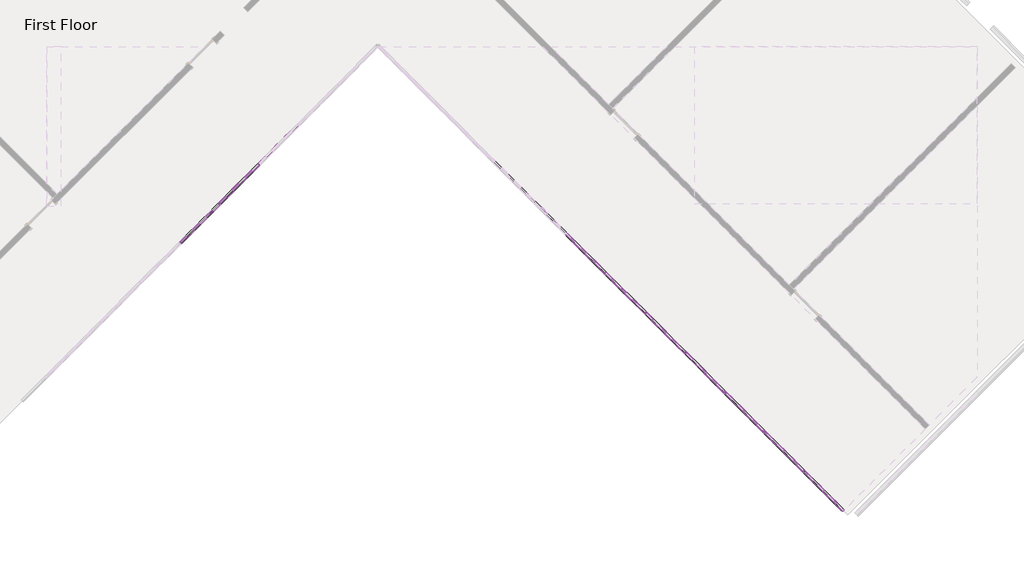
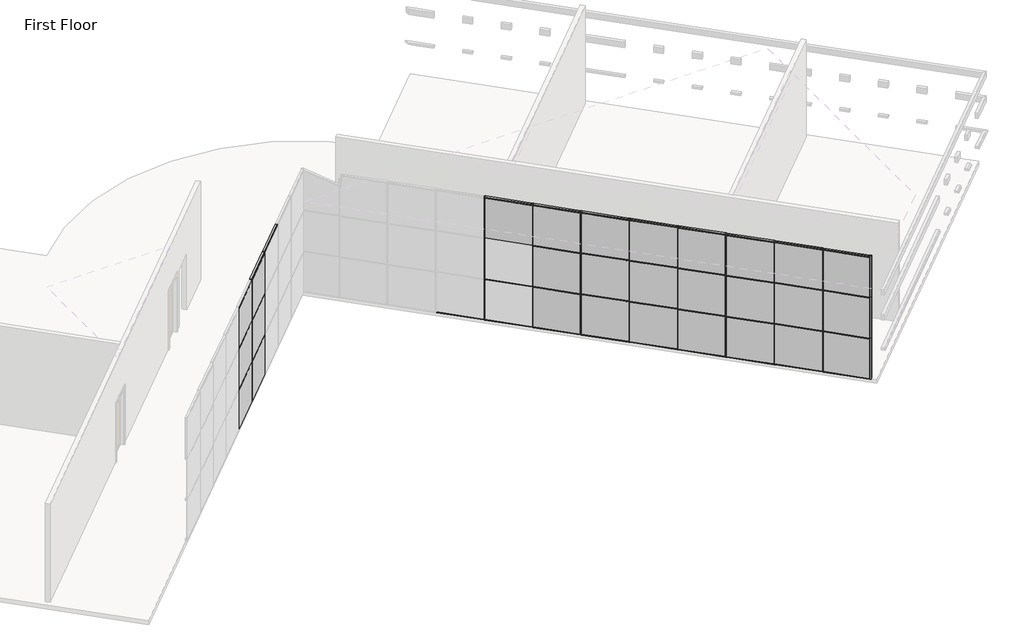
# One storey, part 2 of 5: 73 members, 28 plates.
"""IFC4 building model written with IfcOpenShell, lengths in millimetres."""

from ifc_helpers import new_model, si_unit, origin, place, context, project, spatial, transform, mapped, element, save
from components import member_b8a5b5c0, member_155beb68, member_f5090587, member_42be4715, member_6121af53, member_b87a50da, system_panel_glazed_f8555db4, system_panel_glazed_da345f4e, system_panel_glazed_d4009c89, system_panel_glazed_f1e4c5b0, system_panel_solid_99f695d0, system_panel_solid_2f1037e2

model = new_model("IFC4")

# Units and contexts
model_context = context("Model", 3, world=origin())
ifc_project = project(units=[si_unit("LENGTHUNIT", "METRE", prefix="MILLI")], contexts=[model_context])

# Site, building, storey
site = spatial("IfcSite", under=ifc_project)
building = spatial("IfcBuilding", under=site)
storey = spatial("IfcBuildingStorey", under=building, Name="First Floor", Elevation=0.0)

# Members
placement = place(None, origin())
member_shape = member_b8a5b5c0(model_context)
element("IfcMember", 1, ObjectType="Rectangular Mullion : 1.5\" x 2.5\" Rectangular", at=placement, inside=storey, context=model_context, shape_type="MappedRepresentation", body=[
    mapped(member_shape, transform((9787.3975743, -9702.8925106, 0.0), x_axis=(0.0, 0.0, -1.0), y_axis=(0.70710678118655, 0.707106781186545, 0.0), z_axis=(0.7071067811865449, -0.7071067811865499, 0.0))),
])
member_2_shape = member_155beb68(model_context)
element("IfcMember", 2, ObjectType="Rectangular Mullion : 1.5\" x 2.5\" Rectangular", at=placement, inside=storey, context=model_context, shape_type="MappedRepresentation", body=[
    mapped(member_2_shape, transform((-6100.9205679, -280.3587756, 0.0), x_axis=(-0.7071067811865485, -0.7071067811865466, 0.0), y_axis=(-0.7071067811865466, 0.7071067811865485, 0.0), z_axis=(0.0, 0.0, -1.0))),
])
element("IfcMember", 3, ObjectType="Rectangular Mullion : 1.5\" x 2.5\" Rectangular", at=placement, inside=storey, context=model_context, shape_type="MappedRepresentation", body=[
    mapped(member_2_shape, transform((-7178.5513024, -1357.9895101, 0.0), x_axis=(-0.7071067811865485, -0.7071067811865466, 0.0), y_axis=(-0.7071067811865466, 0.7071067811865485, 0.0), z_axis=(0.0, 0.0, -1.0))),
])
element("IfcMember", 4, ObjectType="Rectangular Mullion : 1.5\" x 2.5\" Rectangular", at=placement, inside=storey, context=model_context, shape_type="MappedRepresentation", body=[
    mapped(member_2_shape, transform((5503.8154046, -5419.3103408, 0.0), x_axis=(-0.7071067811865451, 0.70710678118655, 0.0), y_axis=(0.70710678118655, 0.7071067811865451, 0.0), z_axis=(0.0, 0.0, -1.0))),
])
element("IfcMember", 5, ObjectType="Rectangular Mullion : 1.5\" x 2.5\" Rectangular", at=placement, inside=storey, context=model_context, shape_type="MappedRepresentation", body=[
    mapped(member_2_shape, transform((4426.18467, -4341.6796063, 0.0), x_axis=(-0.7071067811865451, 0.70710678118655, 0.0), y_axis=(0.70710678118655, 0.7071067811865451, 0.0), z_axis=(0.0, 0.0, -1.0))),
])
element("IfcMember", 6, ObjectType="Rectangular Mullion : 1.5\" x 2.5\" Rectangular", at=placement, inside=storey, context=model_context, shape_type="MappedRepresentation", body=[
    mapped(member_2_shape, transform((3348.5539355, -3264.0488718, 0.0), x_axis=(-0.7071067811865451, 0.70710678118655, 0.0), y_axis=(0.70710678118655, 0.7071067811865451, 0.0), z_axis=(0.0, 0.0, -1.0))),
])
element("IfcMember", 7, ObjectType="Rectangular Mullion : 1.5\" x 2.5\" Rectangular", at=placement, inside=storey, context=model_context, shape_type="MappedRepresentation", body=[
    mapped(member_2_shape, transform((2270.923201, -2186.4181373, 0.0), x_axis=(-0.7071067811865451, 0.70710678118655, 0.0), y_axis=(0.70710678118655, 0.7071067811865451, 0.0), z_axis=(0.0, 0.0, -1.0))),
])
element("IfcMember", 8, ObjectType="Rectangular Mullion : 1.5\" x 2.5\" Rectangular", at=placement, inside=storey, context=model_context, shape_type="MappedRepresentation", body=[
    mapped(member_2_shape, transform((1193.2924664, -1108.7874027, 0.0), x_axis=(-0.7071067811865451, 0.70710678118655, 0.0), y_axis=(0.70710678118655, 0.7071067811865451, 0.0), z_axis=(0.0, 0.0, -1.0))),
])
element("IfcMember", 9, ObjectType="Rectangular Mullion : 1.5\" x 2.5\" Rectangular", at=placement, inside=storey, context=model_context, shape_type="MappedRepresentation", body=[
    mapped(member_2_shape, transform((8736.7076081, -8652.2025444, 0.0), x_axis=(-0.7071067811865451, 0.70710678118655, 0.0), y_axis=(0.70710678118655, 0.7071067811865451, 0.0), z_axis=(0.0, 0.0, -1.0))),
])
element("IfcMember", 10, ObjectType="Rectangular Mullion : 1.5\" x 2.5\" Rectangular", at=placement, inside=storey, context=model_context, shape_type="MappedRepresentation", body=[
    mapped(member_2_shape, transform((7659.0768736, -7574.5718099, 0.0), x_axis=(-0.7071067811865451, 0.70710678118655, 0.0), y_axis=(0.70710678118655, 0.7071067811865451, 0.0), z_axis=(0.0, 0.0, -1.0))),
])
element("IfcMember", 11, ObjectType="Rectangular Mullion : 1.5\" x 2.5\" Rectangular", at=placement, inside=storey, context=model_context, shape_type="MappedRepresentation", body=[
    mapped(member_2_shape, transform((6581.4461391, -6496.9410754, 0.0), x_axis=(-0.7071067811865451, 0.70710678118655, 0.0), y_axis=(0.70710678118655, 0.7071067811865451, 0.0), z_axis=(0.0, 0.0, -1.0))),
])
element("IfcMember", 12, ObjectType="Rectangular Mullion : 1.5\" x 2.5\" Rectangular", at=placement, inside=storey, context=model_context, shape_type="MappedRepresentation", body=[
    mapped(member_2_shape, transform((-7178.5513024, -1357.9895101, 3048.0), x_axis=(-0.7071067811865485, -0.7071067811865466, 0.0), y_axis=(-0.7071067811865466, 0.7071067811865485, 0.0), z_axis=(0.0, 0.0, -1.0))),
])
element("IfcMember", 13, ObjectType="Rectangular Mullion : 1.5\" x 2.5\" Rectangular", at=placement, inside=storey, context=model_context, shape_type="MappedRepresentation", body=[
    mapped(member_2_shape, transform((-6100.9205679, -280.3587756, 3048.0), x_axis=(-0.7071067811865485, -0.7071067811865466, 0.0), y_axis=(-0.7071067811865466, 0.7071067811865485, 0.0), z_axis=(0.0, 0.0, -1.0))),
])
element("IfcMember", 14, ObjectType="Rectangular Mullion : 1.5\" x 2.5\" Rectangular", at=placement, inside=storey, context=model_context, shape_type="MappedRepresentation", body=[
    mapped(member_2_shape, transform((8736.7076081, -8652.2025444, 3048.0), x_axis=(-0.7071067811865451, 0.70710678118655, 0.0), y_axis=(0.70710678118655, 0.7071067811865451, 0.0), z_axis=(0.0, 0.0, -1.0))),
])
element("IfcMember", 15, ObjectType="Rectangular Mullion : 1.5\" x 2.5\" Rectangular", at=placement, inside=storey, context=model_context, shape_type="MappedRepresentation", body=[
    mapped(member_2_shape, transform((7659.0768736, -7574.5718099, 3048.0), x_axis=(-0.7071067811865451, 0.70710678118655, 0.0), y_axis=(0.70710678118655, 0.7071067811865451, 0.0), z_axis=(0.0, 0.0, -1.0))),
])
element("IfcMember", 16, ObjectType="Rectangular Mullion : 1.5\" x 2.5\" Rectangular", at=placement, inside=storey, context=model_context, shape_type="MappedRepresentation", body=[
    mapped(member_2_shape, transform((6581.4461391, -6496.9410754, 3048.0), x_axis=(-0.7071067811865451, 0.70710678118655, 0.0), y_axis=(0.70710678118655, 0.7071067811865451, 0.0), z_axis=(0.0, 0.0, -1.0))),
])
element("IfcMember", 17, ObjectType="Rectangular Mullion : 1.5\" x 2.5\" Rectangular", at=placement, inside=storey, context=model_context, shape_type="MappedRepresentation", body=[
    mapped(member_2_shape, transform((5503.8154046, -5419.3103408, 3048.0), x_axis=(-0.7071067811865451, 0.70710678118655, 0.0), y_axis=(0.70710678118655, 0.7071067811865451, 0.0), z_axis=(0.0, 0.0, -1.0))),
])
element("IfcMember", 18, ObjectType="Rectangular Mullion : 1.5\" x 2.5\" Rectangular", at=placement, inside=storey, context=model_context, shape_type="MappedRepresentation", body=[
    mapped(member_2_shape, transform((4426.18467, -4341.6796063, 3048.0), x_axis=(-0.7071067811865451, 0.70710678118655, 0.0), y_axis=(0.70710678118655, 0.7071067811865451, 0.0), z_axis=(0.0, 0.0, -1.0))),
])
element("IfcMember", 19, ObjectType="Rectangular Mullion : 1.5\" x 2.5\" Rectangular", at=placement, inside=storey, context=model_context, shape_type="MappedRepresentation", body=[
    mapped(member_2_shape, transform((3348.5539355, -3264.0488718, 3048.0), x_axis=(-0.7071067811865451, 0.70710678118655, 0.0), y_axis=(0.70710678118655, 0.7071067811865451, 0.0), z_axis=(0.0, 0.0, -1.0))),
])
element("IfcMember", 20, ObjectType="Rectangular Mullion : 1.5\" x 2.5\" Rectangular", at=placement, inside=storey, context=model_context, shape_type="MappedRepresentation", body=[
    mapped(member_2_shape, transform((2270.923201, -2186.4181373, 3048.0), x_axis=(-0.7071067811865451, 0.70710678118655, 0.0), y_axis=(0.70710678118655, 0.7071067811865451, 0.0), z_axis=(0.0, 0.0, -1.0))),
])
element("IfcMember", 21, ObjectType="Rectangular Mullion : 1.5\" x 2.5\" Rectangular", at=placement, inside=storey, context=model_context, shape_type="MappedRepresentation", body=[
    mapped(member_2_shape, transform((1193.2924664, -1108.7874027, 3048.0), x_axis=(-0.7071067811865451, 0.70710678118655, 0.0), y_axis=(0.70710678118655, 0.7071067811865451, 0.0), z_axis=(0.0, 0.0, -1.0))),
])
element("IfcMember", 22, ObjectType="Rectangular Mullion : 1.5\" x 2.5\" Rectangular", at=placement, inside=storey, context=model_context, shape_type="MappedRepresentation", body=[
    mapped(member_2_shape, transform((-6100.9205679, -280.3587756, 1524.0), x_axis=(-0.7071067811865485, -0.7071067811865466, 0.0), y_axis=(-0.7071067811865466, 0.7071067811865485, 0.0), z_axis=(0.0, 0.0, -1.0))),
])
element("IfcMember", 23, ObjectType="Rectangular Mullion : 1.5\" x 2.5\" Rectangular", at=placement, inside=storey, context=model_context, shape_type="MappedRepresentation", body=[
    mapped(member_2_shape, transform((-7178.5513024, -1357.9895101, 1524.0), x_axis=(-0.7071067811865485, -0.7071067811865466, 0.0), y_axis=(-0.7071067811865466, 0.7071067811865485, 0.0), z_axis=(0.0, 0.0, -1.0))),
])
element("IfcMember", 24, ObjectType="Rectangular Mullion : 1.5\" x 2.5\" Rectangular", at=placement, inside=storey, context=model_context, shape_type="MappedRepresentation", body=[
    mapped(member_2_shape, transform((8736.7076081, -8652.2025444, 1524.0), x_axis=(-0.7071067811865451, 0.70710678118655, 0.0), y_axis=(0.70710678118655, 0.7071067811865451, 0.0), z_axis=(0.0, 0.0, -1.0))),
])
element("IfcMember", 25, ObjectType="Rectangular Mullion : 1.5\" x 2.5\" Rectangular", at=placement, inside=storey, context=model_context, shape_type="MappedRepresentation", body=[
    mapped(member_2_shape, transform((7659.0768736, -7574.5718099, 1524.0), x_axis=(-0.7071067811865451, 0.70710678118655, 0.0), y_axis=(0.70710678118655, 0.7071067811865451, 0.0), z_axis=(0.0, 0.0, -1.0))),
])
element("IfcMember", 26, ObjectType="Rectangular Mullion : 1.5\" x 2.5\" Rectangular", at=placement, inside=storey, context=model_context, shape_type="MappedRepresentation", body=[
    mapped(member_2_shape, transform((6581.4461391, -6496.9410754, 1524.0), x_axis=(-0.7071067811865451, 0.70710678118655, 0.0), y_axis=(0.70710678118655, 0.7071067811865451, 0.0), z_axis=(0.0, 0.0, -1.0))),
])
element("IfcMember", 27, ObjectType="Rectangular Mullion : 1.5\" x 2.5\" Rectangular", at=placement, inside=storey, context=model_context, shape_type="MappedRepresentation", body=[
    mapped(member_2_shape, transform((5503.8154046, -5419.3103408, 1524.0), x_axis=(-0.7071067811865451, 0.70710678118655, 0.0), y_axis=(0.70710678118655, 0.7071067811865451, 0.0), z_axis=(0.0, 0.0, -1.0))),
])
element("IfcMember", 28, ObjectType="Rectangular Mullion : 1.5\" x 2.5\" Rectangular", at=placement, inside=storey, context=model_context, shape_type="MappedRepresentation", body=[
    mapped(member_2_shape, transform((4426.18467, -4341.6796063, 1524.0), x_axis=(-0.7071067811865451, 0.70710678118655, 0.0), y_axis=(0.70710678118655, 0.7071067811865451, 0.0), z_axis=(0.0, 0.0, -1.0))),
])
element("IfcMember", 29, ObjectType="Rectangular Mullion : 1.5\" x 2.5\" Rectangular", at=placement, inside=storey, context=model_context, shape_type="MappedRepresentation", body=[
    mapped(member_2_shape, transform((3348.5539355, -3264.0488718, 1524.0), x_axis=(-0.7071067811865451, 0.70710678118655, 0.0), y_axis=(0.70710678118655, 0.7071067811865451, 0.0), z_axis=(0.0, 0.0, -1.0))),
])
element("IfcMember", 30, ObjectType="Rectangular Mullion : 1.5\" x 2.5\" Rectangular", at=placement, inside=storey, context=model_context, shape_type="MappedRepresentation", body=[
    mapped(member_2_shape, transform((2270.923201, -2186.4181373, 1524.0), x_axis=(-0.7071067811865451, 0.70710678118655, 0.0), y_axis=(0.70710678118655, 0.7071067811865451, 0.0), z_axis=(0.0, 0.0, -1.0))),
])
element("IfcMember", 31, ObjectType="Rectangular Mullion : 1.5\" x 2.5\" Rectangular", at=placement, inside=storey, context=model_context, shape_type="MappedRepresentation", body=[
    mapped(member_2_shape, transform((1193.2924664, -1108.7874027, 1524.0), x_axis=(-0.7071067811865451, 0.70710678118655, 0.0), y_axis=(0.70710678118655, 0.7071067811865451, 0.0), z_axis=(0.0, 0.0, -1.0))),
])
member_3_shape = member_f5090587(model_context)
element("IfcMember", 32, ObjectType="Rectangular Mullion : 1.5\" x 2.5\" Rectangular", at=placement, inside=storey, context=model_context, shape_type="MappedRepresentation", body=[
    mapped(member_3_shape, transform((8750.1779923, -8665.6729286, 1524.0), x_axis=(0.0, 0.0, 1.0), y_axis=(0.7071067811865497, 0.7071067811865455, 0.0), z_axis=(-0.7071067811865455, 0.7071067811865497, 0.0))),
])
element("IfcMember", 33, ObjectType="Rectangular Mullion : 1.5\" x 2.5\" Rectangular", at=placement, inside=storey, context=model_context, shape_type="MappedRepresentation", body=[
    mapped(member_3_shape, transform((8750.1779923, -8665.6729286, 3048.0), x_axis=(0.0, 0.0, 1.0), y_axis=(0.7071067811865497, 0.7071067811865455, 0.0), z_axis=(-0.7071067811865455, 0.7071067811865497, 0.0))),
])
member_4_shape = member_42be4715(model_context)
element("IfcMember", 34, ObjectType="Rectangular Mullion : 1.5\" x 2.5\" Rectangular", at=placement, inside=storey, context=model_context, shape_type="MappedRepresentation", body=[
    mapped(member_4_shape, transform((-6087.4501837, -266.8883914, 1524.0), x_axis=(0.0, 0.0, 1.0), y_axis=(-0.7071067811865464, 0.7071067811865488, 0.0), z_axis=(-0.7071067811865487, -0.7071067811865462, 0.0))),
])
element("IfcMember", 35, ObjectType="Rectangular Mullion : 1.5\" x 2.5\" Rectangular", at=placement, inside=storey, context=model_context, shape_type="MappedRepresentation", body=[
    mapped(member_4_shape, transform((-7165.0809182, -1344.5191259, 1524.0), x_axis=(0.0, 0.0, 1.0), y_axis=(-0.7071067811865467, 0.7071067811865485, 0.0), z_axis=(-0.7071067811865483, -0.7071067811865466, 0.0))),
])
element("IfcMember", 36, ObjectType="Rectangular Mullion : 1.5\" x 2.5\" Rectangular", at=placement, inside=storey, context=model_context, shape_type="MappedRepresentation", body=[
    mapped(member_4_shape, transform((-6087.4501837, -266.8883914, 3048.0), x_axis=(0.0, 0.0, 1.0), y_axis=(-0.7071067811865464, 0.7071067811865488, 0.0), z_axis=(-0.7071067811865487, -0.7071067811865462, 0.0))),
])
element("IfcMember", 37, ObjectType="Rectangular Mullion : 1.5\" x 2.5\" Rectangular", at=placement, inside=storey, context=model_context, shape_type="MappedRepresentation", body=[
    mapped(member_4_shape, transform((-7165.0809182, -1344.5191259, 3048.0), x_axis=(0.0, 0.0, 1.0), y_axis=(-0.7071067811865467, 0.7071067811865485, 0.0), z_axis=(-0.7071067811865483, -0.7071067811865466, 0.0))),
])
element("IfcMember", 38, ObjectType="Rectangular Mullion : 1.5\" x 2.5\" Rectangular", at=placement, inside=storey, context=model_context, shape_type="MappedRepresentation", body=[
    mapped(member_4_shape, transform((7672.5472578, -7588.0421941, 1524.0), x_axis=(0.0, 0.0, 1.0), y_axis=(0.7071067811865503, 0.7071067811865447, 0.0), z_axis=(-0.7071067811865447, 0.7071067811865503, 0.0))),
])
element("IfcMember", 39, ObjectType="Rectangular Mullion : 1.5\" x 2.5\" Rectangular", at=placement, inside=storey, context=model_context, shape_type="MappedRepresentation", body=[
    mapped(member_4_shape, transform((6594.9165233, -6510.4114596, 1524.0), x_axis=(0.0, 0.0, 1.0), y_axis=(0.7071067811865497, 0.7071067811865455, 0.0), z_axis=(-0.7071067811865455, 0.7071067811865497, 0.0))),
])
element("IfcMember", 40, ObjectType="Rectangular Mullion : 1.5\" x 2.5\" Rectangular", at=placement, inside=storey, context=model_context, shape_type="MappedRepresentation", body=[
    mapped(member_4_shape, transform((5517.2857887, -5432.780725, 1524.0), x_axis=(0.0, 0.0, 1.0), y_axis=(0.70710678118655, 0.707106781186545, 0.0), z_axis=(-0.707106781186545, 0.70710678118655, 0.0))),
])
element("IfcMember", 41, ObjectType="Rectangular Mullion : 1.5\" x 2.5\" Rectangular", at=placement, inside=storey, context=model_context, shape_type="MappedRepresentation", body=[
    mapped(member_4_shape, transform((4439.6550542, -4355.1499905, 1524.0), x_axis=(0.0, 0.0, 1.0), y_axis=(0.70710678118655, 0.707106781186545, 0.0), z_axis=(-0.7071067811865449, 0.7071067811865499, 0.0))),
])
element("IfcMember", 42, ObjectType="Rectangular Mullion : 1.5\" x 2.5\" Rectangular", at=placement, inside=storey, context=model_context, shape_type="MappedRepresentation", body=[
    mapped(member_4_shape, transform((3362.0243197, -3277.519256, 1524.0), x_axis=(0.0, 0.0, 1.0), y_axis=(0.70710678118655, 0.707106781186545, 0.0), z_axis=(-0.707106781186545, 0.70710678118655, 0.0))),
])
element("IfcMember", 43, ObjectType="Rectangular Mullion : 1.5\" x 2.5\" Rectangular", at=placement, inside=storey, context=model_context, shape_type="MappedRepresentation", body=[
    mapped(member_4_shape, transform((2284.3935852, -2199.8885214, 1524.0), x_axis=(0.0, 0.0, 1.0), y_axis=(0.70710678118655, 0.707106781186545, 0.0), z_axis=(-0.7071067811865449, 0.7071067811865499, 0.0))),
])
element("IfcMember", 44, ObjectType="Rectangular Mullion : 1.5\" x 2.5\" Rectangular", at=placement, inside=storey, context=model_context, shape_type="MappedRepresentation", body=[
    mapped(member_4_shape, transform((1206.7628506, -1122.2577869, 1524.0), x_axis=(0.0, 0.0, 1.0), y_axis=(0.70710678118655, 0.707106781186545, 0.0), z_axis=(-0.707106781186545, 0.70710678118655, 0.0))),
])
element("IfcMember", 45, ObjectType="Rectangular Mullion : 1.5\" x 2.5\" Rectangular", at=placement, inside=storey, context=model_context, shape_type="MappedRepresentation", body=[
    mapped(member_4_shape, transform((7672.5472578, -7588.0421941, 3048.0), x_axis=(0.0, 0.0, 1.0), y_axis=(0.70710678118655, 0.707106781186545, 0.0), z_axis=(-0.707106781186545, 0.70710678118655, 0.0))),
])
element("IfcMember", 46, ObjectType="Rectangular Mullion : 1.5\" x 2.5\" Rectangular", at=placement, inside=storey, context=model_context, shape_type="MappedRepresentation", body=[
    mapped(member_4_shape, transform((6594.9165233, -6510.4114596, 3048.0), x_axis=(0.0, 0.0, 1.0), y_axis=(0.70710678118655, 0.707106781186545, 0.0), z_axis=(-0.7071067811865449, 0.7071067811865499, 0.0))),
])
element("IfcMember", 47, ObjectType="Rectangular Mullion : 1.5\" x 2.5\" Rectangular", at=placement, inside=storey, context=model_context, shape_type="MappedRepresentation", body=[
    mapped(member_4_shape, transform((5517.2857887, -5432.780725, 3048.0), x_axis=(0.0, 0.0, 1.0), y_axis=(0.70710678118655, 0.707106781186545, 0.0), z_axis=(-0.7071067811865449, 0.7071067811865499, 0.0))),
])
element("IfcMember", 48, ObjectType="Rectangular Mullion : 1.5\" x 2.5\" Rectangular", at=placement, inside=storey, context=model_context, shape_type="MappedRepresentation", body=[
    mapped(member_4_shape, transform((4439.6550542, -4355.1499905, 3048.0), x_axis=(0.0, 0.0, 1.0), y_axis=(0.70710678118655, 0.707106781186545, 0.0), z_axis=(-0.707106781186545, 0.70710678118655, 0.0))),
])
element("IfcMember", 49, ObjectType="Rectangular Mullion : 1.5\" x 2.5\" Rectangular", at=placement, inside=storey, context=model_context, shape_type="MappedRepresentation", body=[
    mapped(member_4_shape, transform((3362.0243197, -3277.519256, 3048.0), x_axis=(0.0, 0.0, 1.0), y_axis=(0.70710678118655, 0.707106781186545, 0.0), z_axis=(-0.707106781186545, 0.70710678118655, 0.0))),
])
element("IfcMember", 50, ObjectType="Rectangular Mullion : 1.5\" x 2.5\" Rectangular", at=placement, inside=storey, context=model_context, shape_type="MappedRepresentation", body=[
    mapped(member_4_shape, transform((2284.3935852, -2199.8885214, 3048.0), x_axis=(0.0, 0.0, 1.0), y_axis=(0.70710678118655, 0.707106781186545, 0.0), z_axis=(-0.7071067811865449, 0.7071067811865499, 0.0))),
])
member_5_shape = member_6121af53(model_context)
element("IfcMember", 51, ObjectType="Rectangular Mullion : 1.5\" x 2.5\" Rectangular", at=placement, inside=storey, context=model_context, shape_type="MappedRepresentation", body=[
    mapped(member_5_shape, transform((-7192.0216866, -1371.4598943, 0.0), x_axis=(0.0, 0.0, -1.0), y_axis=(-0.7071067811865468, 0.7071067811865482, 0.0), z_axis=(0.7071067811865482, 0.7071067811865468, 0.0))),
])
element("IfcMember", 52, ObjectType="Rectangular Mullion : 1.5\" x 2.5\" Rectangular", at=placement, inside=storey, context=model_context, shape_type="MappedRepresentation", body=[
    mapped(member_5_shape, transform((-6114.3909521, -293.8291597, 0.0), x_axis=(0.0, 0.0, -1.0), y_axis=(-0.7071067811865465, 0.7071067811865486, 0.0), z_axis=(0.7071067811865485, 0.7071067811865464, 0.0))),
])
element("IfcMember", 53, ObjectType="Rectangular Mullion : 1.5\" x 2.5\" Rectangular", at=placement, inside=storey, context=model_context, shape_type="MappedRepresentation", body=[
    mapped(member_5_shape, transform((8723.237224, -8638.7321603, 0.0), x_axis=(0.0, 0.0, -1.0), y_axis=(0.7071067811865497, 0.7071067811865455, 0.0), z_axis=(0.7071067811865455, -0.7071067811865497, 0.0))),
])
element("IfcMember", 54, ObjectType="Rectangular Mullion : 1.5\" x 2.5\" Rectangular", at=placement, inside=storey, context=model_context, shape_type="MappedRepresentation", body=[
    mapped(member_5_shape, transform((7645.6064894, -7561.1014257, 0.0), x_axis=(0.0, 0.0, -1.0), y_axis=(0.70710678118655, 0.707106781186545, 0.0), z_axis=(0.707106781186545, -0.70710678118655, 0.0))),
])
element("IfcMember", 55, ObjectType="Rectangular Mullion : 1.5\" x 2.5\" Rectangular", at=placement, inside=storey, context=model_context, shape_type="MappedRepresentation", body=[
    mapped(member_5_shape, transform((6567.9757549, -6483.4706912, 0.0), x_axis=(0.0, 0.0, -1.0), y_axis=(0.70710678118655, 0.707106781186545, 0.0), z_axis=(0.707106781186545, -0.70710678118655, 0.0))),
])
element("IfcMember", 56, ObjectType="Rectangular Mullion : 1.5\" x 2.5\" Rectangular", at=placement, inside=storey, context=model_context, shape_type="MappedRepresentation", body=[
    mapped(member_5_shape, transform((5490.3450204, -5405.8399567, 0.0), x_axis=(0.0, 0.0, -1.0), y_axis=(0.70710678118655, 0.707106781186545, 0.0), z_axis=(0.7071067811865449, -0.7071067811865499, 0.0))),
])
element("IfcMember", 57, ObjectType="Rectangular Mullion : 1.5\" x 2.5\" Rectangular", at=placement, inside=storey, context=model_context, shape_type="MappedRepresentation", body=[
    mapped(member_5_shape, transform((4412.7142859, -4328.2092221, 0.0), x_axis=(0.0, 0.0, -1.0), y_axis=(0.70710678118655, 0.707106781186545, 0.0), z_axis=(0.707106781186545, -0.70710678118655, 0.0))),
])
element("IfcMember", 58, ObjectType="Rectangular Mullion : 1.5\" x 2.5\" Rectangular", at=placement, inside=storey, context=model_context, shape_type="MappedRepresentation", body=[
    mapped(member_5_shape, transform((3335.0835513, -3250.5784876, 0.0), x_axis=(0.0, 0.0, -1.0), y_axis=(0.70710678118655, 0.707106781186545, 0.0), z_axis=(0.7071067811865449, -0.7071067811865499, 0.0))),
])
element("IfcMember", 59, ObjectType="Rectangular Mullion : 1.5\" x 2.5\" Rectangular", at=placement, inside=storey, context=model_context, shape_type="MappedRepresentation", body=[
    mapped(member_5_shape, transform((2257.4528168, -2172.9477531, 0.0), x_axis=(0.0, 0.0, -1.0), y_axis=(0.70710678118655, 0.707106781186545, 0.0), z_axis=(0.707106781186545, -0.70710678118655, 0.0))),
])
element("IfcMember", 60, ObjectType="Rectangular Mullion : 1.5\" x 2.5\" Rectangular", at=placement, inside=storey, context=model_context, shape_type="MappedRepresentation", body=[
    mapped(member_5_shape, transform((1179.8220823, -1095.3170186, 0.0), x_axis=(0.0, 0.0, -1.0), y_axis=(0.70710678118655, 0.707106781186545, 0.0), z_axis=(0.707106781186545, -0.70710678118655, 0.0))),
])
element("IfcMember", 61, ObjectType="Rectangular Mullion : 1.5\" x 2.5\" Rectangular", at=placement, inside=storey, context=model_context, shape_type="MappedRepresentation", body=[
    mapped(member_shape, transform((8750.1779923, -8665.6729286, 4572.0), x_axis=(0.0, 0.0, 1.0), y_axis=(0.7071067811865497, 0.7071067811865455, 0.0), z_axis=(-0.7071067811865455, 0.7071067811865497, 0.0))),
])
element("IfcMember", 62, ObjectType="Rectangular Mullion : 1.5\" x 2.5\" Rectangular", at=placement, inside=storey, context=model_context, shape_type="MappedRepresentation", body=[
    mapped(member_5_shape, transform((-6087.4501837, -266.8883914, 4572.0), x_axis=(0.0, 0.0, 1.0), y_axis=(-0.7071067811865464, 0.7071067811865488, 0.0), z_axis=(-0.7071067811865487, -0.7071067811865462, 0.0))),
])
element("IfcMember", 63, ObjectType="Rectangular Mullion : 1.5\" x 2.5\" Rectangular", at=placement, inside=storey, context=model_context, shape_type="MappedRepresentation", body=[
    mapped(member_5_shape, transform((-7165.0809182, -1344.5191259, 4572.0), x_axis=(0.0, 0.0, 1.0), y_axis=(-0.7071067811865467, 0.7071067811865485, 0.0), z_axis=(-0.7071067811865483, -0.7071067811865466, 0.0))),
])
element("IfcMember", 64, ObjectType="Rectangular Mullion : 1.5\" x 2.5\" Rectangular", at=placement, inside=storey, context=model_context, shape_type="MappedRepresentation", body=[
    mapped(member_5_shape, transform((7672.5472578, -7588.0421941, 4572.0), x_axis=(0.0, 0.0, 1.0), y_axis=(0.70710678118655, 0.707106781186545, 0.0), z_axis=(-0.707106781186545, 0.70710678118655, 0.0))),
])
element("IfcMember", 65, ObjectType="Rectangular Mullion : 1.5\" x 2.5\" Rectangular", at=placement, inside=storey, context=model_context, shape_type="MappedRepresentation", body=[
    mapped(member_5_shape, transform((6594.9165233, -6510.4114596, 4572.0), x_axis=(0.0, 0.0, 1.0), y_axis=(0.70710678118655, 0.707106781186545, 0.0), z_axis=(-0.7071067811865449, 0.7071067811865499, 0.0))),
])
element("IfcMember", 66, ObjectType="Rectangular Mullion : 1.5\" x 2.5\" Rectangular", at=placement, inside=storey, context=model_context, shape_type="MappedRepresentation", body=[
    mapped(member_5_shape, transform((5517.2857887, -5432.780725, 4572.0), x_axis=(0.0, 0.0, 1.0), y_axis=(0.70710678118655, 0.707106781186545, 0.0), z_axis=(-0.7071067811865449, 0.7071067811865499, 0.0))),
])
element("IfcMember", 67, ObjectType="Rectangular Mullion : 1.5\" x 2.5\" Rectangular", at=placement, inside=storey, context=model_context, shape_type="MappedRepresentation", body=[
    mapped(member_5_shape, transform((4439.6550542, -4355.1499905, 4572.0), x_axis=(0.0, 0.0, 1.0), y_axis=(0.70710678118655, 0.707106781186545, 0.0), z_axis=(-0.707106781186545, 0.70710678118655, 0.0))),
])
element("IfcMember", 68, ObjectType="Rectangular Mullion : 1.5\" x 2.5\" Rectangular", at=placement, inside=storey, context=model_context, shape_type="MappedRepresentation", body=[
    mapped(member_5_shape, transform((3362.0243197, -3277.519256, 4572.0), x_axis=(0.0, 0.0, 1.0), y_axis=(0.70710678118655, 0.707106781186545, 0.0), z_axis=(-0.707106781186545, 0.70710678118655, 0.0))),
])
element("IfcMember", 69, ObjectType="Rectangular Mullion : 1.5\" x 2.5\" Rectangular", at=placement, inside=storey, context=model_context, shape_type="MappedRepresentation", body=[
    mapped(member_5_shape, transform((2284.3935852, -2199.8885214, 4572.0), x_axis=(0.0, 0.0, 1.0), y_axis=(0.70710678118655, 0.707106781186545, 0.0), z_axis=(-0.7071067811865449, 0.7071067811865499, 0.0))),
])
element("IfcMember", 70, ObjectType="Rectangular Mullion : 1.5\" x 2.5\" Rectangular", at=placement, inside=storey, context=model_context, shape_type="MappedRepresentation", body=[
    mapped(member_5_shape, transform((1206.7628506, -1122.2577869, 4572.0), x_axis=(0.0, 0.0, 1.0), y_axis=(0.70710678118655, 0.707106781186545, 0.0), z_axis=(-0.707106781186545, 0.70710678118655, 0.0))),
])
member_6_shape = member_b87a50da(model_context)
element("IfcMember", 71, ObjectType="Rectangular Mullion : 1.5\" x 2.5\" Rectangular", at=placement, inside=storey, context=model_context, shape_type="MappedRepresentation", body=[
    mapped(member_6_shape, transform((9814.3383427, -9729.833279, 4572.0), x_axis=(0.7071067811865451, -0.70710678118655, 0.0), y_axis=(0.70710678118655, 0.7071067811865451, 0.0), z_axis=(0.0, 0.0, 1.0))),
])
element("IfcMember", 72, ObjectType="Rectangular Mullion : 1.5\" x 2.5\" Rectangular", at=placement, inside=storey, context=model_context, shape_type="MappedRepresentation", body=[
    mapped(member_6_shape, transform((9814.3383427, -9729.833279, 1524.0), x_axis=(0.7071067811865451, -0.70710678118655, 0.0), y_axis=(0.70710678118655, 0.7071067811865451, 0.0), z_axis=(0.0, 0.0, 1.0))),
])
element("IfcMember", 73, ObjectType="Rectangular Mullion : 1.5\" x 2.5\" Rectangular", at=placement, inside=storey, context=model_context, shape_type="MappedRepresentation", body=[
    mapped(member_6_shape, transform((9814.3383427, -9729.833279, 3048.0), x_axis=(0.7071067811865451, -0.70710678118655, 0.0), y_axis=(0.70710678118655, 0.7071067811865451, 0.0), z_axis=(0.0, 0.0, 1.0))),
])

# Plates
system_panel_glazed_shape = system_panel_glazed_f8555db4(model_context)
element("IfcPlate", 74, ObjectType="System Panel : Glazed", at=placement, inside=storey, context=model_context, shape_type="MappedRepresentation", body=[
    mapped(system_panel_glazed_shape, transform((9268.7877833, -9184.2827196, 38.1), x_axis=(-0.7071067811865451, 0.70710678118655, 0.0), y_axis=(-0.70710678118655, -0.7071067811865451, 0.0), z_axis=(0.0, 0.0, 1.0))),
])
system_panel_glazed_2_shape = system_panel_glazed_da345f4e(model_context)
element("IfcPlate", 75, ObjectType="System Panel : Glazed", at=placement, inside=storey, context=model_context, shape_type="MappedRepresentation", body=[
    mapped(system_panel_glazed_2_shape, transform((8197.8922409, -8113.3871772, 38.1), x_axis=(-0.7071067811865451, 0.70710678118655, 0.0), y_axis=(-0.70710678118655, -0.7071067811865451, 0.0), z_axis=(0.0, 0.0, 1.0))),
])
element("IfcPlate", 76, ObjectType="System Panel : Glazed", at=placement, inside=storey, context=model_context, shape_type="MappedRepresentation", body=[
    mapped(system_panel_glazed_2_shape, transform((7120.2615064, -7035.7564426, 38.1), x_axis=(-0.7071067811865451, 0.70710678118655, 0.0), y_axis=(-0.70710678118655, -0.7071067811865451, 0.0), z_axis=(0.0, 0.0, 1.0))),
])
element("IfcPlate", 77, ObjectType="System Panel : Glazed", at=placement, inside=storey, context=model_context, shape_type="MappedRepresentation", body=[
    mapped(system_panel_glazed_2_shape, transform((6042.6307718, -5958.1257081, 38.1), x_axis=(-0.7071067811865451, 0.70710678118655, 0.0), y_axis=(-0.70710678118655, -0.7071067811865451, 0.0), z_axis=(0.0, 0.0, 1.0))),
])
element("IfcPlate", 78, ObjectType="System Panel : Glazed", at=placement, inside=storey, context=model_context, shape_type="MappedRepresentation", body=[
    mapped(system_panel_glazed_2_shape, transform((4965.0000373, -4880.4949736, 38.1), x_axis=(-0.7071067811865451, 0.70710678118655, 0.0), y_axis=(-0.70710678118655, -0.7071067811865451, 0.0), z_axis=(0.0, 0.0, 1.0))),
])
element("IfcPlate", 79, ObjectType="System Panel : Glazed", at=placement, inside=storey, context=model_context, shape_type="MappedRepresentation", body=[
    mapped(system_panel_glazed_2_shape, transform((3887.3693028, -3802.8642391, 38.1), x_axis=(-0.7071067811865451, 0.70710678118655, 0.0), y_axis=(-0.70710678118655, -0.7071067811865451, 0.0), z_axis=(0.0, 0.0, 1.0))),
])
element("IfcPlate", 80, ObjectType="System Panel : Glazed", at=placement, inside=storey, context=model_context, shape_type="MappedRepresentation", body=[
    mapped(system_panel_glazed_2_shape, transform((2809.7385682, -2725.2335045, 38.1), x_axis=(-0.7071067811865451, 0.70710678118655, 0.0), y_axis=(-0.70710678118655, -0.7071067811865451, 0.0), z_axis=(0.0, 0.0, 1.0))),
])
element("IfcPlate", 81, ObjectType="System Panel : Glazed", at=placement, inside=storey, context=model_context, shape_type="MappedRepresentation", body=[
    mapped(system_panel_glazed_2_shape, transform((-6639.7359352, -819.1741428, 38.1), x_axis=(-0.7071067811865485, -0.7071067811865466, 0.0), y_axis=(0.7071067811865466, -0.7071067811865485, 0.0), z_axis=(0.0, 0.0, 1.0))),
])
element("IfcPlate", 82, ObjectType="System Panel : Glazed", at=placement, inside=storey, context=model_context, shape_type="MappedRepresentation", body=[
    mapped(system_panel_glazed_2_shape, transform((-7717.3666697, -1896.8048774, 38.1), x_axis=(-0.7071067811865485, -0.7071067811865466, 0.0), y_axis=(0.7071067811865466, -0.7071067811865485, 0.0), z_axis=(0.0, 0.0, 1.0))),
])
system_panel_glazed_3_shape = system_panel_glazed_d4009c89(model_context)
element("IfcPlate", 83, ObjectType="System Panel : Glazed", at=placement, inside=storey, context=model_context, shape_type="MappedRepresentation", body=[
    mapped(system_panel_glazed_3_shape, transform((9268.7877833, -9184.2827196, 1543.05), x_axis=(-0.7071067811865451, 0.70710678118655, 0.0), y_axis=(-0.70710678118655, -0.7071067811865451, 0.0), z_axis=(0.0, 0.0, 1.0))),
])
system_panel_glazed_4_shape = system_panel_glazed_f1e4c5b0(model_context)
element("IfcPlate", 84, ObjectType="System Panel : Glazed", at=placement, inside=storey, context=model_context, shape_type="MappedRepresentation", body=[
    mapped(system_panel_glazed_4_shape, transform((8197.8922409, -8113.3871772, 1543.05), x_axis=(-0.7071067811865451, 0.70710678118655, 0.0), y_axis=(-0.70710678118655, -0.7071067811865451, 0.0), z_axis=(0.0, 0.0, 1.0))),
])
element("IfcPlate", 85, ObjectType="System Panel : Glazed", at=placement, inside=storey, context=model_context, shape_type="MappedRepresentation", body=[
    mapped(system_panel_glazed_4_shape, transform((7120.2615064, -7035.7564426, 1543.05), x_axis=(-0.7071067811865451, 0.70710678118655, 0.0), y_axis=(-0.70710678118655, -0.7071067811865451, 0.0), z_axis=(0.0, 0.0, 1.0))),
])
element("IfcPlate", 86, ObjectType="System Panel : Glazed", at=placement, inside=storey, context=model_context, shape_type="MappedRepresentation", body=[
    mapped(system_panel_glazed_4_shape, transform((6042.6307718, -5958.1257081, 1543.05), x_axis=(-0.7071067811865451, 0.70710678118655, 0.0), y_axis=(-0.70710678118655, -0.7071067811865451, 0.0), z_axis=(0.0, 0.0, 1.0))),
])
element("IfcPlate", 87, ObjectType="System Panel : Glazed", at=placement, inside=storey, context=model_context, shape_type="MappedRepresentation", body=[
    mapped(system_panel_glazed_4_shape, transform((4965.0000373, -4880.4949736, 1543.05), x_axis=(-0.7071067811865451, 0.70710678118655, 0.0), y_axis=(-0.70710678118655, -0.7071067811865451, 0.0), z_axis=(0.0, 0.0, 1.0))),
])
element("IfcPlate", 88, ObjectType="System Panel : Glazed", at=placement, inside=storey, context=model_context, shape_type="MappedRepresentation", body=[
    mapped(system_panel_glazed_4_shape, transform((3887.3693028, -3802.8642391, 1543.05), x_axis=(-0.7071067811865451, 0.70710678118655, 0.0), y_axis=(-0.70710678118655, -0.7071067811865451, 0.0), z_axis=(0.0, 0.0, 1.0))),
])
element("IfcPlate", 89, ObjectType="System Panel : Glazed", at=placement, inside=storey, context=model_context, shape_type="MappedRepresentation", body=[
    mapped(system_panel_glazed_4_shape, transform((2809.7385682, -2725.2335045, 1543.05), x_axis=(-0.7071067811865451, 0.70710678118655, 0.0), y_axis=(-0.70710678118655, -0.7071067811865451, 0.0), z_axis=(0.0, 0.0, 1.0))),
])
element("IfcPlate", 90, ObjectType="System Panel : Glazed", at=placement, inside=storey, context=model_context, shape_type="MappedRepresentation", body=[
    mapped(system_panel_glazed_4_shape, transform((-6639.7359352, -819.1741428, 1543.05), x_axis=(-0.7071067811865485, -0.7071067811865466, 0.0), y_axis=(0.7071067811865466, -0.7071067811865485, 0.0), z_axis=(0.0, 0.0, 1.0))),
])
element("IfcPlate", 91, ObjectType="System Panel : Glazed", at=placement, inside=storey, context=model_context, shape_type="MappedRepresentation", body=[
    mapped(system_panel_glazed_4_shape, transform((-7717.3666697, -1896.8048774, 1543.05), x_axis=(-0.7071067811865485, -0.7071067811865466, 0.0), y_axis=(0.7071067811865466, -0.7071067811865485, 0.0), z_axis=(0.0, 0.0, 1.0))),
])
system_panel_solid_shape = system_panel_solid_99f695d0(model_context)
element("IfcPlate", 92, ObjectType="System Panel : Solid", at=placement, inside=storey, context=model_context, shape_type="MappedRepresentation", body=[
    mapped(system_panel_solid_shape, transform((9268.7877833, -9184.2827196, 3067.05), x_axis=(-0.7071067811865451, 0.70710678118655, 0.0), y_axis=(-0.70710678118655, -0.7071067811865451, 0.0), z_axis=(0.0, 0.0, 1.0))),
])
system_panel_solid_2_shape = system_panel_solid_2f1037e2(model_context)
element("IfcPlate", 93, ObjectType="System Panel : Solid", at=placement, inside=storey, context=model_context, shape_type="MappedRepresentation", body=[
    mapped(system_panel_solid_2_shape, transform((8197.8922409, -8113.3871772, 3067.05), x_axis=(-0.7071067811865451, 0.70710678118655, 0.0), y_axis=(-0.70710678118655, -0.7071067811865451, 0.0), z_axis=(0.0, 0.0, 1.0))),
])
element("IfcPlate", 94, ObjectType="System Panel : Solid", at=placement, inside=storey, context=model_context, shape_type="MappedRepresentation", body=[
    mapped(system_panel_solid_2_shape, transform((7120.2615064, -7035.7564426, 3067.05), x_axis=(-0.7071067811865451, 0.70710678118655, 0.0), y_axis=(-0.70710678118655, -0.7071067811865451, 0.0), z_axis=(0.0, 0.0, 1.0))),
])
element("IfcPlate", 95, ObjectType="System Panel : Solid", at=placement, inside=storey, context=model_context, shape_type="MappedRepresentation", body=[
    mapped(system_panel_solid_2_shape, transform((6042.6307718, -5958.1257081, 3067.05), x_axis=(-0.7071067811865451, 0.70710678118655, 0.0), y_axis=(-0.70710678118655, -0.7071067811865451, 0.0), z_axis=(0.0, 0.0, 1.0))),
])
element("IfcPlate", 96, ObjectType="System Panel : Solid", at=placement, inside=storey, context=model_context, shape_type="MappedRepresentation", body=[
    mapped(system_panel_solid_2_shape, transform((4965.0000373, -4880.4949736, 3067.05), x_axis=(-0.7071067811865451, 0.70710678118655, 0.0), y_axis=(-0.70710678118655, -0.7071067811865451, 0.0), z_axis=(0.0, 0.0, 1.0))),
])
element("IfcPlate", 97, ObjectType="System Panel : Solid", at=placement, inside=storey, context=model_context, shape_type="MappedRepresentation", body=[
    mapped(system_panel_solid_2_shape, transform((3887.3693028, -3802.8642391, 3067.05), x_axis=(-0.7071067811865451, 0.70710678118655, 0.0), y_axis=(-0.70710678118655, -0.7071067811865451, 0.0), z_axis=(0.0, 0.0, 1.0))),
])
element("IfcPlate", 98, ObjectType="System Panel : Solid", at=placement, inside=storey, context=model_context, shape_type="MappedRepresentation", body=[
    mapped(system_panel_solid_2_shape, transform((2809.7385682, -2725.2335045, 3067.05), x_axis=(-0.7071067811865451, 0.70710678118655, 0.0), y_axis=(-0.70710678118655, -0.7071067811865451, 0.0), z_axis=(0.0, 0.0, 1.0))),
])
element("IfcPlate", 99, ObjectType="System Panel : Solid", at=placement, inside=storey, context=model_context, shape_type="MappedRepresentation", body=[
    mapped(system_panel_solid_2_shape, transform((1732.1078337, -1647.60277, 3067.05), x_axis=(-0.7071067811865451, 0.70710678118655, 0.0), y_axis=(-0.70710678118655, -0.7071067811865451, 0.0), z_axis=(0.0, 0.0, 1.0))),
])
element("IfcPlate", 100, ObjectType="System Panel : Solid", at=placement, inside=storey, context=model_context, shape_type="MappedRepresentation", body=[
    mapped(system_panel_solid_2_shape, transform((-6639.7359352, -819.1741428, 3067.05), x_axis=(-0.7071067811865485, -0.7071067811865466, 0.0), y_axis=(0.7071067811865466, -0.7071067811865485, 0.0), z_axis=(0.0, 0.0, 1.0))),
])
element("IfcPlate", 101, ObjectType="System Panel : Solid", at=placement, inside=storey, context=model_context, shape_type="MappedRepresentation", body=[
    mapped(system_panel_solid_2_shape, transform((-7717.3666697, -1896.8048774, 3067.05), x_axis=(-0.7071067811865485, -0.7071067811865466, 0.0), y_axis=(0.7071067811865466, -0.7071067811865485, 0.0), z_axis=(0.0, 0.0, 1.0))),
])

save(model, "model.ifc")
